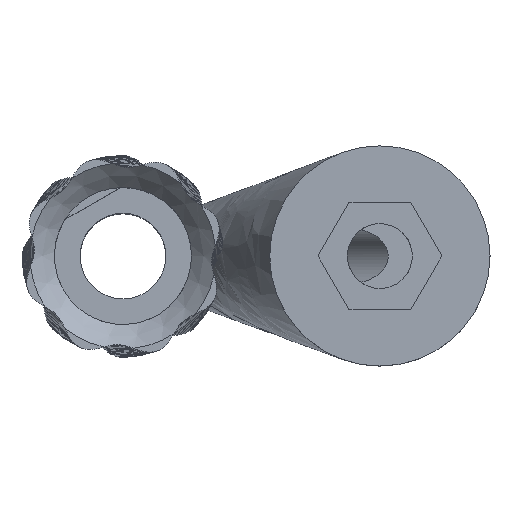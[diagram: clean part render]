
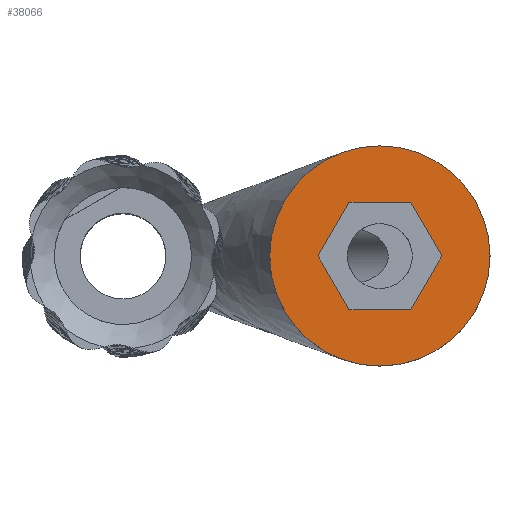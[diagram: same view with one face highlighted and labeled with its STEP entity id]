
A CAD part, top view. The second image highlights one B-rep face of the part: STEP entity #38066.
In plain terms, the highlighted planar face has unit normal (0, 0, 1).
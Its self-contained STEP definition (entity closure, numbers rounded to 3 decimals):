
#37838 = PLANE('',#37839);
#37839 = AXIS2_PLACEMENT_3D('',#37840,#37841,#37842);
#37840 = CARTESIAN_POINT('',(52.115,0.,44.));
#37841 = DIRECTION('',(-0.866,-0.5,0.));
#37842 = DIRECTION('',(-0.5,0.866,0.));
#37866 = PLANE('',#37867);
#37867 = AXIS2_PLACEMENT_3D('',#37868,#37869,#37870);
#37868 = CARTESIAN_POINT('',(47.057,8.76,44.));
#37869 = DIRECTION('',(0.,-1.,0.));
#37870 = DIRECTION('',(-1.,0.,0.));
#37894 = PLANE('',#37895);
#37895 = AXIS2_PLACEMENT_3D('',#37896,#37897,#37898);
#37896 = CARTESIAN_POINT('',(36.943,8.76,44.));
#37897 = DIRECTION('',(0.866,-0.5,0.));
#37898 = DIRECTION('',(-0.5,-0.866,0.));
#37922 = PLANE('',#37923);
#37923 = AXIS2_PLACEMENT_3D('',#37924,#37925,#37926);
#37924 = CARTESIAN_POINT('',(31.885,0.,44.));
#37925 = DIRECTION('',(0.866,0.5,-0.));
#37926 = DIRECTION('',(0.5,-0.866,0.));
#37950 = PLANE('',#37951);
#37951 = AXIS2_PLACEMENT_3D('',#37952,#37953,#37954);
#37952 = CARTESIAN_POINT('',(36.943,-8.76,44.));
#37953 = DIRECTION('',(0.,1.,-0.));
#37954 = DIRECTION('',(1.,0.,0.));
#37976 = PLANE('',#37977);
#37977 = AXIS2_PLACEMENT_3D('',#37978,#37979,#37980);
#37978 = CARTESIAN_POINT('',(47.057,-8.76,44.));
#37979 = DIRECTION('',(-0.866,0.5,0.));
#37980 = DIRECTION('',(0.5,0.866,0.));
#37998 = VERTEX_POINT('',#37999);
#37999 = CARTESIAN_POINT('',(47.057,-8.76,50.));
#38020 = EDGE_CURVE('',#38021,#37998,#38023,.T.);
#38021 = VERTEX_POINT('',#38022);
#38022 = CARTESIAN_POINT('',(52.115,0.,50.));
#38023 = SURFACE_CURVE('',#38024,(#38028,#38034),.PCURVE_S1.);
#38024 = LINE('',#38025,#38026);
#38025 = CARTESIAN_POINT('',(48.322,-6.57,50.));
#38026 = VECTOR('',#38027,1.);
#38027 = DIRECTION('',(-0.5,-0.866,0.));
#38028 = PCURVE('',#37976,#38029);
#38029 = DEFINITIONAL_REPRESENTATION('',(#38030),#38033);
#38030 = B_SPLINE_CURVE_WITH_KNOTS('',1,(#38031,#38032),.UNSPECIFIED.,
  .F.,.F.,(2,2),(-7.586,2.529),
  .PIECEWISE_BEZIER_KNOTS.);
#38031 = CARTESIAN_POINT('',(10.115,-6.));
#38032 = CARTESIAN_POINT('',(0.,-6.));
#38033 = ( GEOMETRIC_REPRESENTATION_CONTEXT(2) 
PARAMETRIC_REPRESENTATION_CONTEXT() REPRESENTATION_CONTEXT('2D SPACE',''
  ) );
#38034 = PCURVE('',#38035,#38040);
#38035 = PLANE('',#38036);
#38036 = AXIS2_PLACEMENT_3D('',#38037,#38038,#38039);
#38037 = CARTESIAN_POINT('',(42.,0.,50.));
#38038 = DIRECTION('',(0.,0.,1.));
#38039 = DIRECTION('',(1.,0.,-0.));
#38040 = DEFINITIONAL_REPRESENTATION('',(#38041),#38044);
#38041 = B_SPLINE_CURVE_WITH_KNOTS('',1,(#38042,#38043),.UNSPECIFIED.,
  .F.,.F.,(2,2),(-7.586,2.529),
  .PIECEWISE_BEZIER_KNOTS.);
#38042 = CARTESIAN_POINT('',(10.115,0.));
#38043 = CARTESIAN_POINT('',(5.057,-8.76));
#38044 = ( GEOMETRIC_REPRESENTATION_CONTEXT(2) 
PARAMETRIC_REPRESENTATION_CONTEXT() REPRESENTATION_CONTEXT('2D SPACE',''
  ) );
#38066 = ADVANCED_FACE('',(#38067,#38098),#38035,.T.);
#38067 = FACE_BOUND('',#38068,.T.);
#38068 = EDGE_LOOP('',(#38069));
#38069 = ORIENTED_EDGE('',*,*,#38070,.T.);
#38070 = EDGE_CURVE('',#38071,#38071,#38073,.T.);
#38071 = VERTEX_POINT('',#38072);
#38072 = CARTESIAN_POINT('',(60.,0.,50.));
#38073 = SURFACE_CURVE('',#38074,(#38079,#38086),.PCURVE_S1.);
#38074 = CIRCLE('',#38075,18.);
#38075 = AXIS2_PLACEMENT_3D('',#38076,#38077,#38078);
#38076 = CARTESIAN_POINT('',(42.,0.,50.));
#38077 = DIRECTION('',(0.,0.,1.));
#38078 = DIRECTION('',(1.,0.,0.));
#38079 = PCURVE('',#38035,#38080);
#38080 = DEFINITIONAL_REPRESENTATION('',(#38081),#38085);
#38081 = CIRCLE('',#38082,18.);
#38082 = AXIS2_PLACEMENT_2D('',#38083,#38084);
#38083 = CARTESIAN_POINT('',(0.,0.));
#38084 = DIRECTION('',(1.,0.));
#38085 = ( GEOMETRIC_REPRESENTATION_CONTEXT(2) 
PARAMETRIC_REPRESENTATION_CONTEXT() REPRESENTATION_CONTEXT('2D SPACE',''
  ) );
#38086 = PCURVE('',#38087,#38092);
#38087 = CYLINDRICAL_SURFACE('',#38088,18.);
#38088 = AXIS2_PLACEMENT_3D('',#38089,#38090,#38091);
#38089 = CARTESIAN_POINT('',(42.,0.,42.));
#38090 = DIRECTION('',(-0.,-0.,-1.));
#38091 = DIRECTION('',(1.,0.,0.));
#38092 = DEFINITIONAL_REPRESENTATION('',(#38093),#38097);
#38093 = LINE('',#38094,#38095);
#38094 = CARTESIAN_POINT('',(-0.,-8.));
#38095 = VECTOR('',#38096,1.);
#38096 = DIRECTION('',(-1.,0.));
#38097 = ( GEOMETRIC_REPRESENTATION_CONTEXT(2) 
PARAMETRIC_REPRESENTATION_CONTEXT() REPRESENTATION_CONTEXT('2D SPACE',''
  ) );
#38098 = FACE_BOUND('',#38099,.T.);
#38099 = EDGE_LOOP('',(#38100,#38123,#38142,#38143,#38164,#38185));
#38100 = ORIENTED_EDGE('',*,*,#38101,.T.);
#38101 = EDGE_CURVE('',#38102,#38104,#38106,.T.);
#38102 = VERTEX_POINT('',#38103);
#38103 = CARTESIAN_POINT('',(36.943,8.76,50.));
#38104 = VERTEX_POINT('',#38105);
#38105 = CARTESIAN_POINT('',(47.057,8.76,50.));
#38106 = SURFACE_CURVE('',#38107,(#38111,#38117),.PCURVE_S1.);
#38107 = LINE('',#38108,#38109);
#38108 = CARTESIAN_POINT('',(44.529,8.76,50.));
#38109 = VECTOR('',#38110,1.);
#38110 = DIRECTION('',(1.,0.,-0.));
#38111 = PCURVE('',#38035,#38112);
#38112 = DEFINITIONAL_REPRESENTATION('',(#38113),#38116);
#38113 = B_SPLINE_CURVE_WITH_KNOTS('',1,(#38114,#38115),.UNSPECIFIED.,
  .F.,.F.,(2,2),(-7.586,2.529),
  .PIECEWISE_BEZIER_KNOTS.);
#38114 = CARTESIAN_POINT('',(-5.057,8.76));
#38115 = CARTESIAN_POINT('',(5.057,8.76));
#38116 = ( GEOMETRIC_REPRESENTATION_CONTEXT(2) 
PARAMETRIC_REPRESENTATION_CONTEXT() REPRESENTATION_CONTEXT('2D SPACE',''
  ) );
#38117 = PCURVE('',#37866,#38118);
#38118 = DEFINITIONAL_REPRESENTATION('',(#38119),#38122);
#38119 = B_SPLINE_CURVE_WITH_KNOTS('',1,(#38120,#38121),.UNSPECIFIED.,
  .F.,.F.,(2,2),(-7.586,2.529),
  .PIECEWISE_BEZIER_KNOTS.);
#38120 = CARTESIAN_POINT('',(10.115,-6.));
#38121 = CARTESIAN_POINT('',(0.,-6.));
#38122 = ( GEOMETRIC_REPRESENTATION_CONTEXT(2) 
PARAMETRIC_REPRESENTATION_CONTEXT() REPRESENTATION_CONTEXT('2D SPACE',''
  ) );
#38123 = ORIENTED_EDGE('',*,*,#38124,.T.);
#38124 = EDGE_CURVE('',#38104,#38021,#38125,.T.);
#38125 = SURFACE_CURVE('',#38126,(#38130,#38136),.PCURVE_S1.);
#38126 = LINE('',#38127,#38128);
#38127 = CARTESIAN_POINT('',(50.851,2.19,50.));
#38128 = VECTOR('',#38129,1.);
#38129 = DIRECTION('',(0.5,-0.866,0.));
#38130 = PCURVE('',#38035,#38131);
#38131 = DEFINITIONAL_REPRESENTATION('',(#38132),#38135);
#38132 = B_SPLINE_CURVE_WITH_KNOTS('',1,(#38133,#38134),.UNSPECIFIED.,
  .F.,.F.,(2,2),(-7.586,2.529),
  .PIECEWISE_BEZIER_KNOTS.);
#38133 = CARTESIAN_POINT('',(5.057,8.76));
#38134 = CARTESIAN_POINT('',(10.115,0.));
#38135 = ( GEOMETRIC_REPRESENTATION_CONTEXT(2) 
PARAMETRIC_REPRESENTATION_CONTEXT() REPRESENTATION_CONTEXT('2D SPACE',''
  ) );
#38136 = PCURVE('',#37838,#38137);
#38137 = DEFINITIONAL_REPRESENTATION('',(#38138),#38141);
#38138 = B_SPLINE_CURVE_WITH_KNOTS('',1,(#38139,#38140),.UNSPECIFIED.,
  .F.,.F.,(2,2),(-7.586,2.529),
  .PIECEWISE_BEZIER_KNOTS.);
#38139 = CARTESIAN_POINT('',(10.115,-6.));
#38140 = CARTESIAN_POINT('',(0.,-6.));
#38141 = ( GEOMETRIC_REPRESENTATION_CONTEXT(2) 
PARAMETRIC_REPRESENTATION_CONTEXT() REPRESENTATION_CONTEXT('2D SPACE',''
  ) );
#38142 = ORIENTED_EDGE('',*,*,#38020,.T.);
#38143 = ORIENTED_EDGE('',*,*,#38144,.T.);
#38144 = EDGE_CURVE('',#37998,#38145,#38147,.T.);
#38145 = VERTEX_POINT('',#38146);
#38146 = CARTESIAN_POINT('',(36.943,-8.76,50.));
#38147 = SURFACE_CURVE('',#38148,(#38152,#38158),.PCURVE_S1.);
#38148 = LINE('',#38149,#38150);
#38149 = CARTESIAN_POINT('',(39.471,-8.76,50.));
#38150 = VECTOR('',#38151,1.);
#38151 = DIRECTION('',(-1.,0.,0.));
#38152 = PCURVE('',#38035,#38153);
#38153 = DEFINITIONAL_REPRESENTATION('',(#38154),#38157);
#38154 = B_SPLINE_CURVE_WITH_KNOTS('',1,(#38155,#38156),.UNSPECIFIED.,
  .F.,.F.,(2,2),(-7.586,2.529),
  .PIECEWISE_BEZIER_KNOTS.);
#38155 = CARTESIAN_POINT('',(5.057,-8.76));
#38156 = CARTESIAN_POINT('',(-5.057,-8.76));
#38157 = ( GEOMETRIC_REPRESENTATION_CONTEXT(2) 
PARAMETRIC_REPRESENTATION_CONTEXT() REPRESENTATION_CONTEXT('2D SPACE',''
  ) );
#38158 = PCURVE('',#37950,#38159);
#38159 = DEFINITIONAL_REPRESENTATION('',(#38160),#38163);
#38160 = B_SPLINE_CURVE_WITH_KNOTS('',1,(#38161,#38162),.UNSPECIFIED.,
  .F.,.F.,(2,2),(-7.586,2.529),
  .PIECEWISE_BEZIER_KNOTS.);
#38161 = CARTESIAN_POINT('',(10.115,-6.));
#38162 = CARTESIAN_POINT('',(0.,-6.));
#38163 = ( GEOMETRIC_REPRESENTATION_CONTEXT(2) 
PARAMETRIC_REPRESENTATION_CONTEXT() REPRESENTATION_CONTEXT('2D SPACE',''
  ) );
#38164 = ORIENTED_EDGE('',*,*,#38165,.T.);
#38165 = EDGE_CURVE('',#38145,#38166,#38168,.T.);
#38166 = VERTEX_POINT('',#38167);
#38167 = CARTESIAN_POINT('',(31.885,0.,50.));
#38168 = SURFACE_CURVE('',#38169,(#38173,#38179),.PCURVE_S1.);
#38169 = LINE('',#38170,#38171);
#38170 = CARTESIAN_POINT('',(33.149,-2.19,50.));
#38171 = VECTOR('',#38172,1.);
#38172 = DIRECTION('',(-0.5,0.866,0.));
#38173 = PCURVE('',#38035,#38174);
#38174 = DEFINITIONAL_REPRESENTATION('',(#38175),#38178);
#38175 = B_SPLINE_CURVE_WITH_KNOTS('',1,(#38176,#38177),.UNSPECIFIED.,
  .F.,.F.,(2,2),(-7.586,2.529),
  .PIECEWISE_BEZIER_KNOTS.);
#38176 = CARTESIAN_POINT('',(-5.057,-8.76));
#38177 = CARTESIAN_POINT('',(-10.115,0.));
#38178 = ( GEOMETRIC_REPRESENTATION_CONTEXT(2) 
PARAMETRIC_REPRESENTATION_CONTEXT() REPRESENTATION_CONTEXT('2D SPACE',''
  ) );
#38179 = PCURVE('',#37922,#38180);
#38180 = DEFINITIONAL_REPRESENTATION('',(#38181),#38184);
#38181 = B_SPLINE_CURVE_WITH_KNOTS('',1,(#38182,#38183),.UNSPECIFIED.,
  .F.,.F.,(2,2),(-7.586,2.529),
  .PIECEWISE_BEZIER_KNOTS.);
#38182 = CARTESIAN_POINT('',(10.115,-6.));
#38183 = CARTESIAN_POINT('',(0.,-6.));
#38184 = ( GEOMETRIC_REPRESENTATION_CONTEXT(2) 
PARAMETRIC_REPRESENTATION_CONTEXT() REPRESENTATION_CONTEXT('2D SPACE',''
  ) );
#38185 = ORIENTED_EDGE('',*,*,#38186,.T.);
#38186 = EDGE_CURVE('',#38166,#38102,#38187,.T.);
#38187 = SURFACE_CURVE('',#38188,(#38192,#38198),.PCURVE_S1.);
#38188 = LINE('',#38189,#38190);
#38189 = CARTESIAN_POINT('',(35.678,6.57,50.));
#38190 = VECTOR('',#38191,1.);
#38191 = DIRECTION('',(0.5,0.866,-0.));
#38192 = PCURVE('',#38035,#38193);
#38193 = DEFINITIONAL_REPRESENTATION('',(#38194),#38197);
#38194 = B_SPLINE_CURVE_WITH_KNOTS('',1,(#38195,#38196),.UNSPECIFIED.,
  .F.,.F.,(2,2),(-7.586,2.529),
  .PIECEWISE_BEZIER_KNOTS.);
#38195 = CARTESIAN_POINT('',(-10.115,0.));
#38196 = CARTESIAN_POINT('',(-5.057,8.76));
#38197 = ( GEOMETRIC_REPRESENTATION_CONTEXT(2) 
PARAMETRIC_REPRESENTATION_CONTEXT() REPRESENTATION_CONTEXT('2D SPACE',''
  ) );
#38198 = PCURVE('',#37894,#38199);
#38199 = DEFINITIONAL_REPRESENTATION('',(#38200),#38203);
#38200 = B_SPLINE_CURVE_WITH_KNOTS('',1,(#38201,#38202),.UNSPECIFIED.,
  .F.,.F.,(2,2),(-7.586,2.529),
  .PIECEWISE_BEZIER_KNOTS.);
#38201 = CARTESIAN_POINT('',(10.115,-6.));
#38202 = CARTESIAN_POINT('',(0.,-6.));
#38203 = ( GEOMETRIC_REPRESENTATION_CONTEXT(2) 
PARAMETRIC_REPRESENTATION_CONTEXT() REPRESENTATION_CONTEXT('2D SPACE',''
  ) );
